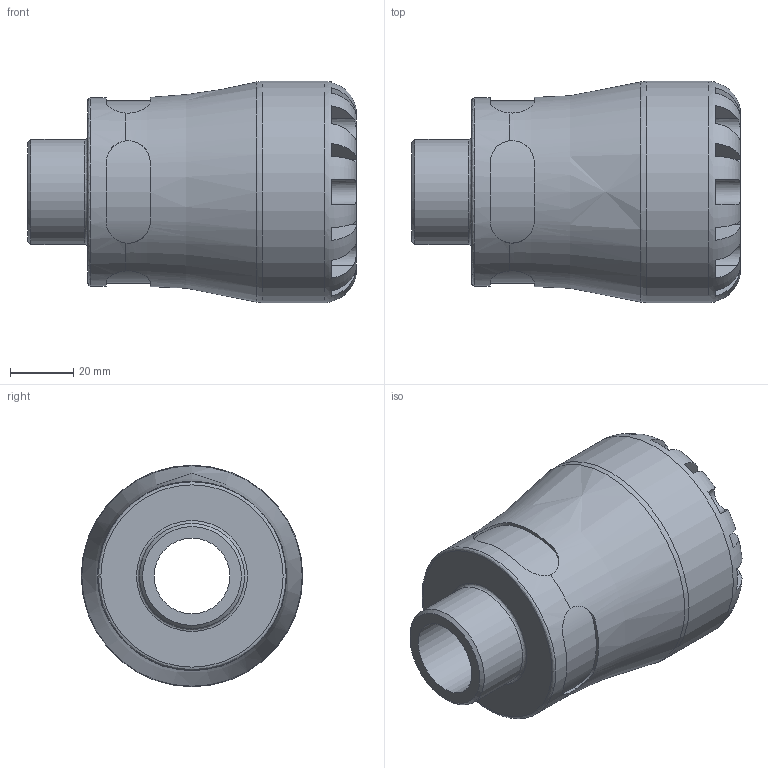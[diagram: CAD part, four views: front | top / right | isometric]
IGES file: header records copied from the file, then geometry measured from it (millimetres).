
Global section: file name: 100200040010_190200040010.ipt; native system: Autodesk Inventor 2015; preprocessor: unknown; author: KIM; date: 20170727.143948; units: millimetre
Bounding box: 104 x 70 x 70 mm (x, y, z)
Volume: 183805.9 mm3; surface area: 37631.9 mm2
Topology: 1 solids, 1 shells, 100 faces, 268 edges, 172 vertices
Faces by surface type: plane 60, revolution 24, cylinder 15, cone 1
Full cylindrical faces by diameter (mm): 33.249 x1, 59.5 x1, 70 x1
